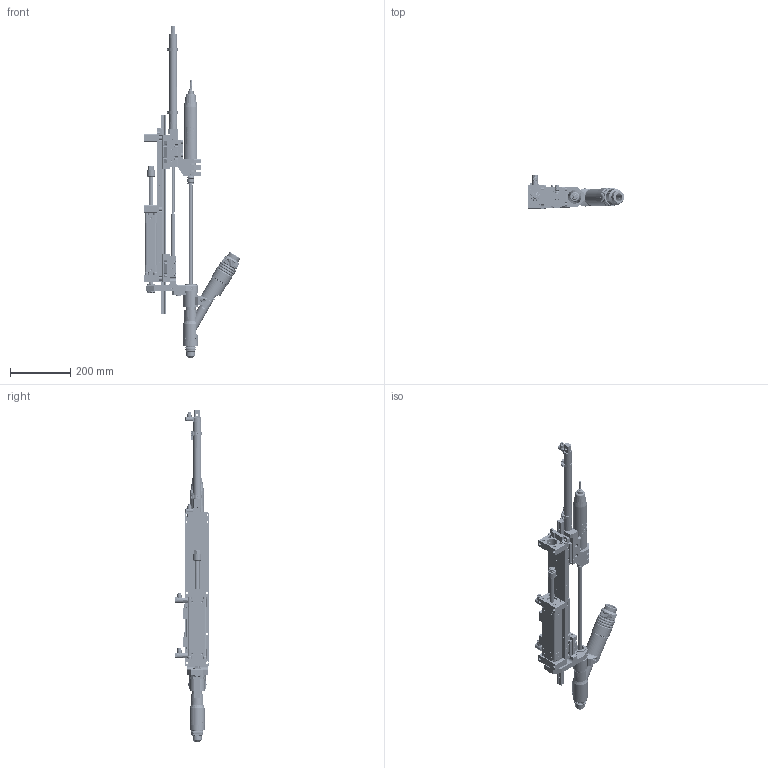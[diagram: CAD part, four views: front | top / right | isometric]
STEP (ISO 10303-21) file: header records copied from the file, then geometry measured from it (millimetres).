
FILE_DESCRIPTION(/* description */ ('© Copyright 2019 – Urheberrechtshinweis Diese CAD-Daten sind urheberrechtlich geschützt. Das Urheberrecht liegt, soweit nicht ausdrücklich anders gekennzeichnet, bei Stöger Automation GmbH. Bitte fragen Sie uns, falls Sie die CAD-Daten vervielfältigen oder','CAx-IF Rec.Pracs.---Representation and Presentation of Product Manufacturing Information (PMI)---4.0---2014-10-13'),/* implementation_level */ '2;1');
FILE_NAME(/* name */ 'N:\09_Entwicklung\09_01_Entwicklungen\09_01_01_Entwicklungsprojekte\VER0211_SEL100_Überarbeitung\Marketing\Step-Modelle\3D_Step_file_automatic_screwdriver_for_screws_SEL101.stp',/* time_stamp */ '2019-03-12T10:08:32+01:00',/* author */ ('Stöger Automation GmbH'),/* organization */ ('Stöger Automation GmbH'),/* preprocessor_version */ 'ST-DEVELOPER v17',/* originating_system */ 'Autodesk Inventor 2018',/* authorisation */ '');
FILE_SCHEMA (('AP242_MANAGED_MODEL_BASED_3D_ENGINEERING_MIM_LF { 1 0 10303 442 1 1 4 }'));
Products named in the file (1): MKT-SEL10101.ipt
Bounding box: 319.16 x 114.05 x 1097.8 mm (x, y, z)
Volume: 3126447.9 mm3; surface area: 1057588.4 mm2
Topology: 145 solids, 146 shells, 5970 faces, 16281 edges, 10878 vertices
Faces by surface type: plane 3023, cylinder 1604, bspline 607, cone 593, torus 136, sphere 7
Full cylindrical faces by diameter (mm): 1 x4, 2.5 x2, 3 x6, 3.1 x5, 3.242 x7, 3.8 x2, 4 x18, 4.1 x2, 4.134 x23, 4.2 x3, 4.4 x2, 4.9 x2, 4.917 x30, 5 x16, 5.2 x12, 5.459 x2, 6 x48, 6.2 x9, 6.4 x8, 6.5 x7, 6.6 x1, 6.647 x25, 8 x21, 8.2 x7, 8.376 x2, 8.4 x18, 8.5 x19, 8.566 x2, 8.8 x1, 9.2 x7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
Entity records: 349990 total; most frequent: CARTESIAN_POINT 197800, ORIENTED_EDGE 32366, DIRECTION 28817, EDGE_CURVE 16183, VERTEX_POINT 10878, AXIS2_PLACEMENT_3D 10337, LINE 8143, VECTOR 8143
